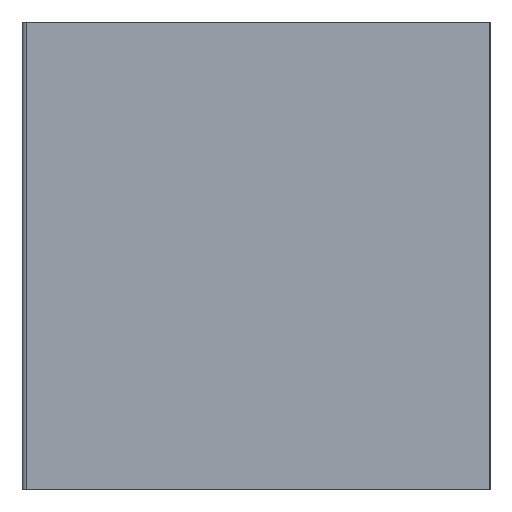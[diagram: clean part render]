
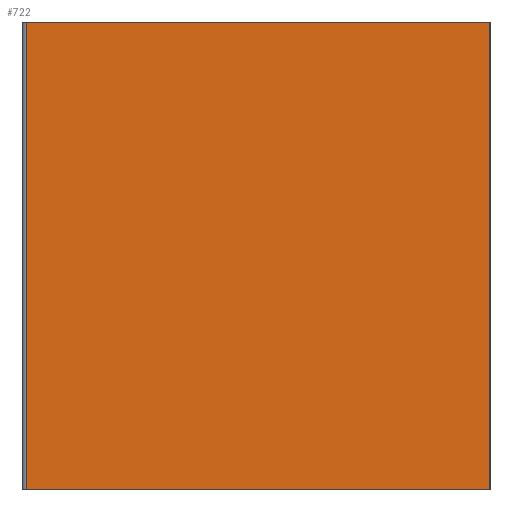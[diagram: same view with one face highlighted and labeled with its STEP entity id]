
A CAD part, left-side view. The second image highlights one B-rep face of the part: STEP entity #722.
In plain terms, the highlighted planar face has unit normal (-1, 0, 0).
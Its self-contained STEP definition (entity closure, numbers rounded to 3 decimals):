
#471 = EDGE_CURVE ( 'NONE', #2811, #559, #772, .T. ) ;
#492 = ORIENTED_EDGE ( 'NONE', *, *, #471, .F. ) ;
#559 = VERTEX_POINT ( 'NONE', #1084 ) ;
#583 = EDGE_CURVE ( 'NONE', #2883, #559, #1210, .T. ) ;
#640 = ORIENTED_EDGE ( 'NONE', *, *, #583, .T. ) ;
#701 = EDGE_LOOP ( 'NONE', ( #640, #492, #2316, #1470 ) ) ;
#722 = ADVANCED_FACE ( 'NONE', ( #1798 ), #1799, .F. ) ;
#772 = LINE ( 'NONE', #773, #774 ) ;
#773 = CARTESIAN_POINT ( 'NONE',  ( -132.5, 0., 50. ) ) ;
#774 = VECTOR ( 'NONE', #775, 1000. ) ;
#775 = DIRECTION ( 'NONE',  ( 0., 0., -1. ) ) ;
#829 = CARTESIAN_POINT ( 'NONE',  ( -132.5, 49.5, 0. ) ) ;
#1084 = CARTESIAN_POINT ( 'NONE',  ( -132.5, 0., 0. ) ) ;
#1210 = LINE ( 'NONE', #1211, #1212 ) ;
#1211 = CARTESIAN_POINT ( 'NONE',  ( -132.5, 0., 0. ) ) ;
#1212 = VECTOR ( 'NONE', #1213, 1000. ) ;
#1213 = DIRECTION ( 'NONE',  ( 0., -1., 0. ) ) ;
#1470 = ORIENTED_EDGE ( 'NONE', *, *, #2495, .T. ) ;
#1745 = CARTESIAN_POINT ( 'NONE',  ( -132.5, 0., 50. ) ) ;
#1798 = FACE_OUTER_BOUND ( 'NONE', #701, .T. ) ;
#1799 = PLANE ( 'NONE',  #1800 ) ;
#1800 = AXIS2_PLACEMENT_3D ( 'NONE', #1801, #1802, #1803 ) ;
#1801 = CARTESIAN_POINT ( 'NONE',  ( -132.5, 0., 50. ) ) ;
#1802 = DIRECTION ( 'NONE',  ( 1., 0., 0. ) ) ;
#1803 = DIRECTION ( 'NONE',  ( 0., 0., -1. ) ) ;
#1975 = EDGE_CURVE ( 'NONE', #2280, #2811, #2516, .T. ) ;
#2280 = VERTEX_POINT ( 'NONE', #2640 ) ;
#2316 = ORIENTED_EDGE ( 'NONE', *, *, #1975, .F. ) ;
#2495 = EDGE_CURVE ( 'NONE', #2280, #2883, #2721, .T. ) ;
#2516 = LINE ( 'NONE', #2517, #2518 ) ;
#2517 = CARTESIAN_POINT ( 'NONE',  ( -132.5, 0., 50. ) ) ;
#2518 = VECTOR ( 'NONE', #2519, 1000. ) ;
#2519 = DIRECTION ( 'NONE',  ( 0., -1., 0. ) ) ;
#2640 = CARTESIAN_POINT ( 'NONE',  ( -132.5, 49.5, 50. ) ) ;
#2721 = LINE ( 'NONE', #2722, #2723 ) ;
#2722 = CARTESIAN_POINT ( 'NONE',  ( -132.5, 49.5, 50. ) ) ;
#2723 = VECTOR ( 'NONE', #2724, 1000. ) ;
#2724 = DIRECTION ( 'NONE',  ( 0., 0., -1. ) ) ;
#2811 = VERTEX_POINT ( 'NONE', #1745 ) ;
#2883 = VERTEX_POINT ( 'NONE', #829 ) ;
